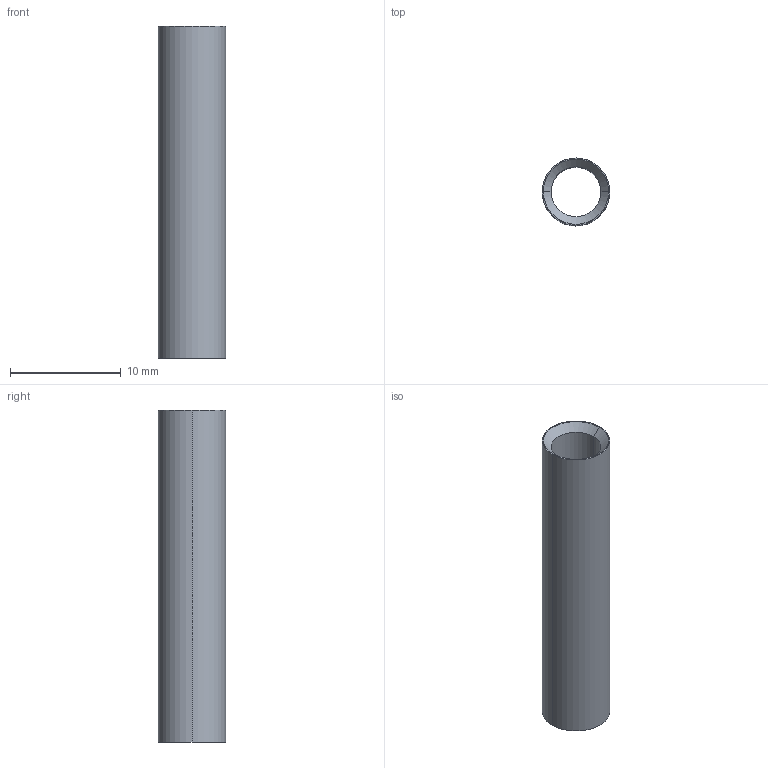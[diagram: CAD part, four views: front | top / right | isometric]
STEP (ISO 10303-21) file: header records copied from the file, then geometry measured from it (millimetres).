
FILE_DESCRIPTION (( 'STEP AP214' ), '1' );
FILE_NAME ('OptiKit C-GTY-10.STEP', '2020-05-19T08:29:42', ( '' ), ( '' ), 'SwSTEP 2.0', 'SolidWorks 2018', '' );
FILE_SCHEMA (( 'AUTOMOTIVE_DESIGN' ));
Length unit declared in the file: millimetre
Products named in the file (1): OptiKit  C-GTY-10
Bounding box: 6.1 x 6.1 x 30 mm (x, y, z)
Volume: 392 mm3; surface area: 1015.3 mm2
Topology: 1 solids, 1 shells, 10 faces, 20 edges, 12 vertices
Faces by surface type: cone 4, cylinder 4, plane 2
Entity records: 302 total; most frequent: DIRECTION 54, CARTESIAN_POINT 43, ORIENTED_EDGE 40, AXIS2_PLACEMENT_3D 23, EDGE_CURVE 20, VERTEX_POINT 12, EDGE_LOOP 12, CIRCLE 12
